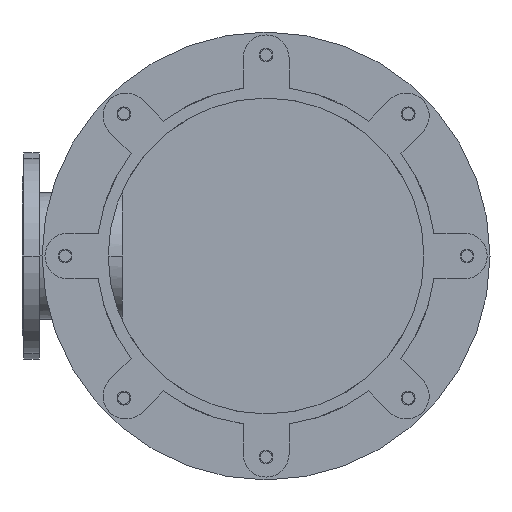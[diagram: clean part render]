
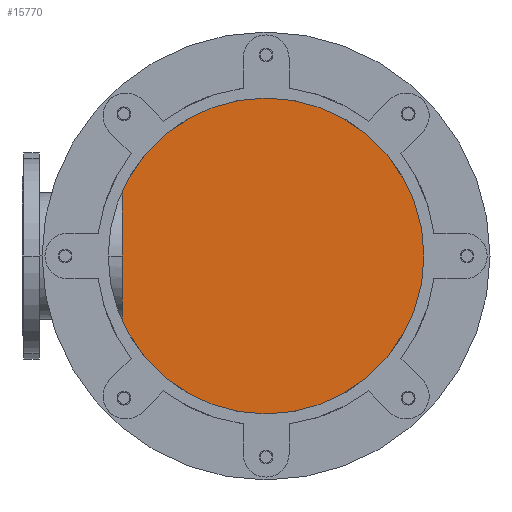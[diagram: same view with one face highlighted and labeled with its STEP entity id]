
A CAD part, front view. The second image highlights one B-rep face of the part: STEP entity #15770.
In plain terms, the highlighted planar face has unit normal (0, -1, 0).
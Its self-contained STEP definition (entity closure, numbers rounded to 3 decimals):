
#3936=CARTESIAN_POINT('',(0.,1117.,0.));
#3937=DIRECTION('',(0.,-1.,0.));
#3938=DIRECTION('',(0.,0.,-1.));
#3939=AXIS2_PLACEMENT_3D('',#3936,#3937,#3938);
#4021=CARTESIAN_POINT('',(0.,1117.,0.));
#4022=DIRECTION('',(0.,-1.,0.));
#4023=DIRECTION('',(0.,0.,1.));
#4024=AXIS2_PLACEMENT_3D('',#4021,#4022,#4023);
#9163=CARTESIAN_POINT('',(0.,1117.,290.));
#9164=CARTESIAN_POINT('',(0.,1117.,-290.));
#9165=VERTEX_POINT('',#9163);
#9166=VERTEX_POINT('',#9164);
#15761=CARTESIAN_POINT('',(0.,1117.,0.));
#15762=DIRECTION('',(0.,1.,0.));
#15763=DIRECTION('',(0.,0.,-1.));
#15764=AXIS2_PLACEMENT_3D('',#15761,#15762,#15763);
#15765=PLANE('',#15764);
#15766=ORIENTED_EDGE('',*,*,#15741,.F.);
#15767=ORIENTED_EDGE('',*,*,#15646,.F.);
#15768=EDGE_LOOP('',(#15766,#15767));
#15769=FACE_OUTER_BOUND('',#15768,.F.);
#15770=ADVANCED_FACE('',(#15769),#15765,.F.);
#3940=CIRCLE('',#3939,290.);
#4025=CIRCLE('',#4024,290.);
#15646=EDGE_CURVE('',#9166,#9165,#3940,.T.);
#15741=EDGE_CURVE('',#9165,#9166,#4025,.T.);
